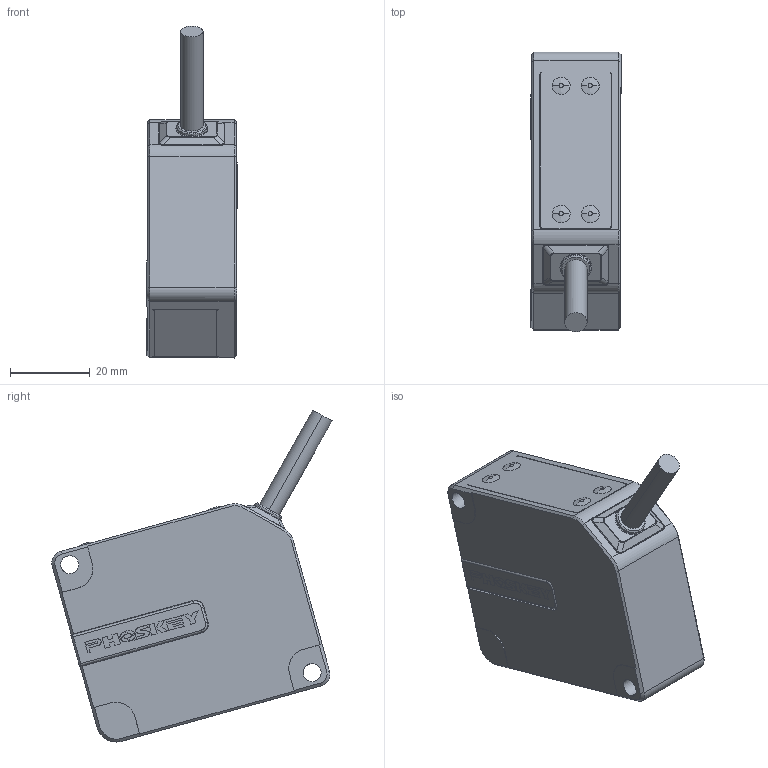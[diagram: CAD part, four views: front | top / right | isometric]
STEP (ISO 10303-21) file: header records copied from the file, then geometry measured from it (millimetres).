
FILE_DESCRIPTION(/* description */ (''),/* implementation_level */ '2;1');
FILE_NAME(/* name */ 'pdm-30-v02（不带光路）_stp.stp',/* time_stamp */ '2023-08-29T15:13:15+08:00',/* author */ (''),/* organization */ (''),/* preprocessor_version */ 'ST-DEVELOPER v16',/* originating_system */ 'SIEMENS PLM Software NX 10.0',/* authorisation */ '');
FILE_SCHEMA (('AUTOMOTIVE_DESIGN { 1 0 10303 214 3 1 1 1 }'));
Length unit declared in the file: millimetre
Products named in the file (1): admi132CEB184o6p
Bounding box: 22.64 x 70.35 x 83.35 mm (x, y, z)
Volume: 21898.7 mm3; surface area: 22034.5 mm2
Topology: 1 solids, 2 shells, 493 faces, 1308 edges, 859 vertices
Faces by surface type: plane 251, cylinder 159, cone 38, bspline 28, extrusion 11, torus 6
Entity records: 18907 total; most frequent: CARTESIAN_POINT 9230, ORIENTED_EDGE 2616, EDGE_CURVE 1308, B_SPLINE_CURVE_WITH_KNOTS 1203, DIRECTION 1007, VERTEX_POINT 859, EDGE_LOOP 541, ADVANCED_FACE 493
